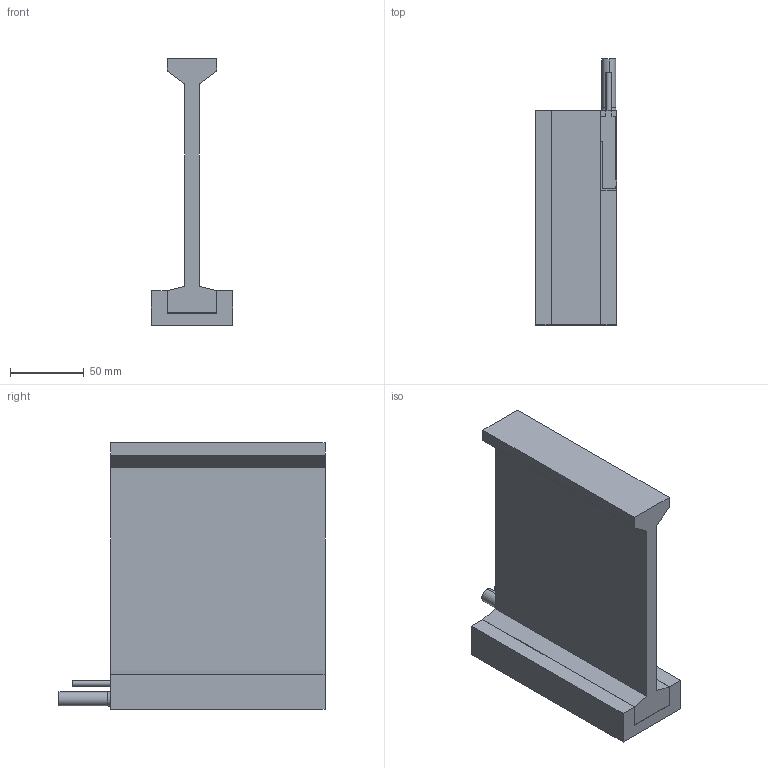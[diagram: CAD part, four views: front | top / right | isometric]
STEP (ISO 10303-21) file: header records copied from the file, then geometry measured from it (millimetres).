
FILE_DESCRIPTION (( 'STEP AP214' ), '1' );
FILE_NAME ('DX140F-C2.STEP', '2021-07-16T04:29:21', ( '' ), ( '' ), 'SwSTEP 2.0', 'SolidWorks 2020', '' );
FILE_SCHEMA (( 'AUTOMOTIVE_DESIGN' ));
Length unit declared in the file: millimetre
Products named in the file (6): DX140FCX01_C2 (CUSTOMER); DX140FH-X.X-ZZ-00 (CUSTOMER); DX140F-C2; TIM-PC 8850FT-LV (DX140F)_C2; HEX SHCS M3x0.5x12(S.S)_B18.3.1M - 3 x 0.5 x 12 Hex SHCS -- 12CHX; CBL_PWR_D10
Assembly tree (6 placements, depth 2):
  DX140F-C2
    TIM-PC 8850FT-LV (DX140F)_C2
    DX140FCX01_C2 (CUSTOMER)
    HEX SHCS M3x0.5x12(S.S)_B18.3.1M - 3 x 0.5 x 12 Hex SHCS -- 12CHX  x2
    CBL_PWR_D10
    DX140FH-X.X-ZZ-00 (CUSTOMER)
Bounding box: 55 x 180 x 180.6 mm (x, y, z)
Volume: 449826.1 mm3; surface area: 106403.7 mm2
Topology: 8 solids, 8 shells, 205 faces, 497 edges, 305 vertices
Faces by surface type: plane 116, cylinder 57, cone 26, torus 6
Entity records: 5545 total; most frequent: DIRECTION 921, CARTESIAN_POINT 882, ORIENTED_EDGE 846, EDGE_CURVE 423, AXIS2_PLACEMENT_3D 311, LINE 299, VECTOR 299, VERTEX_POINT 272
